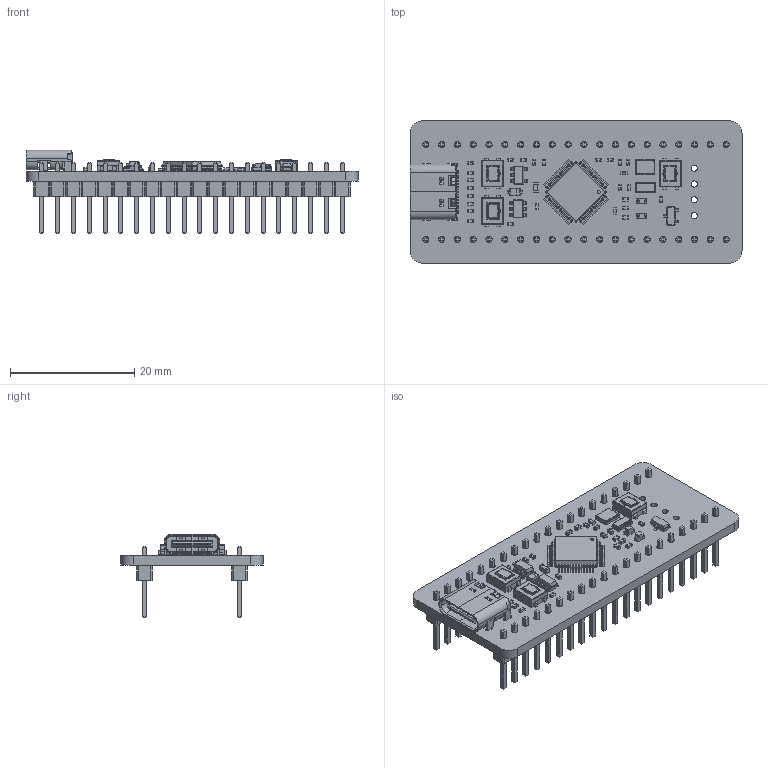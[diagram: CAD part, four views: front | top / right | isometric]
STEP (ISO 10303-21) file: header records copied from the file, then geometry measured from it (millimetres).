
FILE_DESCRIPTION(('KiCad electronic assembly'),'2;1');
FILE_NAME('KAmod-BluePill+w_pins.step','2024-10-15T12:30:38',('Pcbnew'), ('Kicad'),'Open CASCADE STEP processor 7.8','KiCad to STEP converter', 'Unknown');
FILE_SCHEMA(('AUTOMOTIVE_DESIGN { 1 0 10303 214 1 1 1 1 }'));
Length unit declared in the file: millimetre
Products named in the file (30): KAmod-BluePill+w_pins 1; C_0402_1005Metric; R_0402_1005Metric; Crystal_SMD_SeikoEpson_TSX3225-4Pin_3.2x2.5mm; D_SOD-323; D_SOD_323; LQFP-48_7x7mm_P0.5mm; LQFP_48_7x7mm_P05mm; LED_0603_1608Metric; USB_C_Receptacle_GCT_USB4105-xx-A_16P_TopMnt_Horizontal; USB_C_Receptacle_16P_TopMnt_Horizontal_GCT_USB4105-xx-A; Crystal_SMD_3215-2Pin_3.2x1.5mm; PinHeader_1x20_P2.54mm_Vertical; PinHeader_1x20_P254mm_Vertical; SOT-23-5; SOT_23_5; SOT-23-6; SOT_23_6; SOT-23; SOT_23; SW_SPST_EVQP2; L_0603_1608Metric; KAmod-BluePill+_PCB
Assembly tree (57 placements, depth 3):
  KAmod-BluePill+w_pins 1
    C_0402_1005Metric  x14
      C_0402_1005Metric
    R_0402_1005Metric  x12
      R_0402_1005Metric
    Crystal_SMD_SeikoEpson_TSX3225-4Pin_3.2x2.5mm
      Crystal_SMD_SeikoEpson_TSX3225-4Pin_3.2x2.5mm
    D_SOD-323
      D_SOD_323
    LQFP-48_7x7mm_P0.5mm
      LQFP_48_7x7mm_P05mm
    LED_0603_1608Metric  x2
      LED_0603_1608Metric
    USB_C_Receptacle_GCT_USB4105-xx-A_16P_TopMnt_Horizontal
      USB_C_Receptacle_16P_TopMnt_Horizontal_GCT_USB4105-xx-A
    Crystal_SMD_3215-2Pin_3.2x1.5mm
      Crystal_SMD_3215-2Pin_3.2x1.5mm
    PinHeader_1x20_P2.54mm_Vertical  x2
      PinHeader_1x20_P254mm_Vertical
    SOT-23-5
      SOT_23_5
    SOT-23-6
      SOT_23_6
    SOT-23
      SOT_23
    SW_SPST_EVQP2  x3
      SW_SPST_EVQP2
    L_0603_1608Metric
      L_0603_1608Metric
    KAmod-BluePill+_PCB
Bounding box: 53.34 x 22.86 x 13.45 mm (x, y, z)
Volume: 2969.8 mm3; surface area: 5960.8 mm2
Topology: 78 solids, 78 shells, 4057 faces, 10268 edges, 6482 vertices
Faces by surface type: plane 2789, cylinder 819, bspline 405, torus 36, cone 8
Full cylindrical faces by diameter (mm): 0.5 x3, 0.65 x2, 1 x44
Entity records: 102942 total; most frequent: CARTESIAN_POINT 18543, ORIENTED_EDGE 13874, DIRECTION 12791, EDGE_CURVE 6937, LINE 5379, VECTOR 5379, VERTEX_POINT 4348, AXIS2_PLACEMENT_3D 3706
